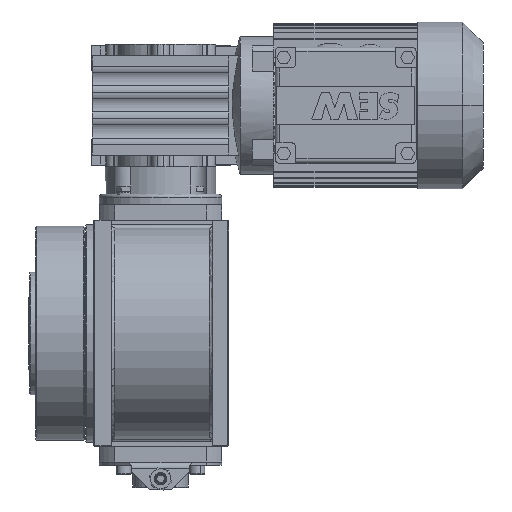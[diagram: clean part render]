
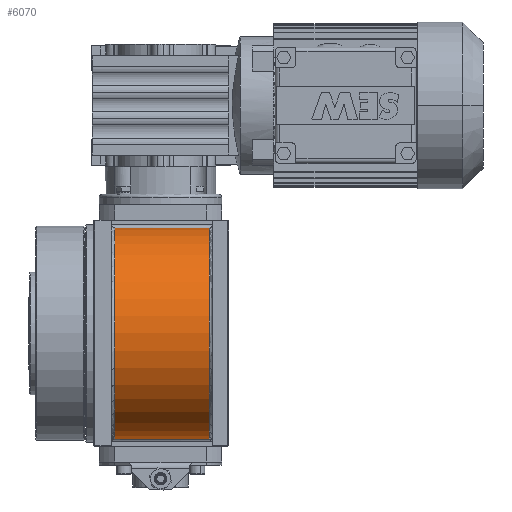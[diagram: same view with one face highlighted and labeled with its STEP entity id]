
A CAD part, left-side view. The second image highlights one B-rep face of the part: STEP entity #6070.
In plain terms, the highlighted cylindrical face has radius 69 mm (diameter 138 mm), a partial arc.
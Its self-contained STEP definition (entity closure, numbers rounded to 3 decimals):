
#3868 = AXIS2_PLACEMENT_3D ( 'NONE', #66716, #38846, #16015 ) ;
#6070 = ADVANCED_FACE ( 'NONE', ( #71804 ), #29584, .T. ) ;
#7562 = VERTEX_POINT ( 'NONE', #41433 ) ;
#8689 = DIRECTION ( 'NONE',  ( 0., -1., 0. ) ) ;
#9969 = ORIENTED_EDGE ( 'NONE', *, *, #68693, .T. ) ;
#10349 = ORIENTED_EDGE ( 'NONE', *, *, #47282, .T. ) ;
#15148 = VERTEX_POINT ( 'NONE', #68462 ) ;
#16015 = DIRECTION ( 'NONE',  ( 0., 0., 1. ) ) ;
#16943 = EDGE_LOOP ( 'NONE', ( #9969, #10349, #57100, #40902 ) ) ;
#20658 = EDGE_CURVE ( 'NONE', #7562, #15148, #34771, .T. ) ;
#23718 = DIRECTION ( 'NONE',  ( 0., -1., 0. ) ) ;
#24960 = CARTESIAN_POINT ( 'NONE',  ( -38.624, 8.762, 40.609 ) ) ;
#28563 = CARTESIAN_POINT ( 'NONE',  ( -42.511, 10.762, -28.281 ) ) ;
#29584 = CYLINDRICAL_SURFACE ( 'NONE', #64893, 69. ) ;
#29645 = DIRECTION ( 'NONE',  ( 0., -1., 0. ) ) ;
#30322 = CIRCLE ( 'NONE', #38542, 69. ) ;
#32725 = CARTESIAN_POINT ( 'NONE',  ( -42.511, -53.238, 109.5 ) ) ;
#34771 = LINE ( 'NONE', #28563, #53943 ) ;
#38542 = AXIS2_PLACEMENT_3D ( 'NONE', #24960, #8689, #70812 ) ;
#38846 = DIRECTION ( 'NONE',  ( 0., 1., 0. ) ) ;
#40902 = ORIENTED_EDGE ( 'NONE', *, *, #20658, .T. ) ;
#41433 = CARTESIAN_POINT ( 'NONE',  ( -42.511, 8.762, -28.281 ) ) ;
#42634 = CIRCLE ( 'NONE', #3868, 69. ) ;
#47282 = EDGE_CURVE ( 'NONE', #53210, #63918, #59157, .T. ) ;
#48563 = VECTOR ( 'NONE', #59518, 1000. ) ;
#53210 = VERTEX_POINT ( 'NONE', #32725 ) ;
#53943 = VECTOR ( 'NONE', #29645, 1000. ) ;
#54054 = CARTESIAN_POINT ( 'NONE',  ( -42.511, 8.762, 109.5 ) ) ;
#57100 = ORIENTED_EDGE ( 'NONE', *, *, #61460, .T. ) ;
#59157 = LINE ( 'NONE', #59888, #48563 ) ;
#59518 = DIRECTION ( 'NONE',  ( 0., 1., 0. ) ) ;
#59888 = CARTESIAN_POINT ( 'NONE',  ( -42.511, 10.762, 109.5 ) ) ;
#61460 = EDGE_CURVE ( 'NONE', #63918, #7562, #30322, .T. ) ;
#62975 = DIRECTION ( 'NONE',  ( 0., 0., -1. ) ) ;
#63918 = VERTEX_POINT ( 'NONE', #54054 ) ;
#64893 = AXIS2_PLACEMENT_3D ( 'NONE', #67738, #23718, #62975 ) ;
#66716 = CARTESIAN_POINT ( 'NONE',  ( -38.624, -53.238, 40.609 ) ) ;
#67738 = CARTESIAN_POINT ( 'NONE',  ( -38.624, 10.762, 40.609 ) ) ;
#68462 = CARTESIAN_POINT ( 'NONE',  ( -42.511, -53.238, -28.281 ) ) ;
#68693 = EDGE_CURVE ( 'NONE', #15148, #53210, #42634, .T. ) ;
#70812 = DIRECTION ( 'NONE',  ( 0., 0., 1. ) ) ;
#71804 = FACE_OUTER_BOUND ( 'NONE', #16943, .T. ) ;
